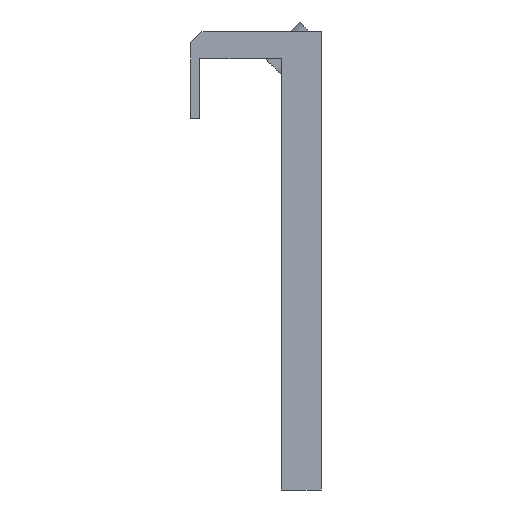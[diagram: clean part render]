
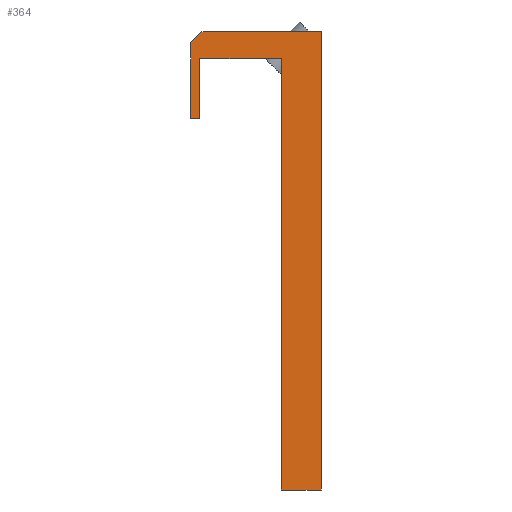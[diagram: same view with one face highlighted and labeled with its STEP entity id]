
A CAD part, front view. The second image highlights one B-rep face of the part: STEP entity #364.
In plain terms, the highlighted planar face has unit normal (0, -1, 0).
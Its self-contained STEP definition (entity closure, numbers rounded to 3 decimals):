
#21 = EDGE_CURVE('',#22,#24,#26,.T.);
#22 = VERTEX_POINT('',#23);
#23 = CARTESIAN_POINT('',(-23.6,23.2,-172.));
#24 = VERTEX_POINT('',#25);
#25 = CARTESIAN_POINT('',(-23.6,23.2,18.5));
#26 = SURFACE_CURVE('',#27,(#31,#43),.PCURVE_S1.);
#27 = LINE('',#28,#29);
#28 = CARTESIAN_POINT('',(-23.6,23.2,-172.));
#29 = VECTOR('',#30,1.);
#30 = DIRECTION('',(0.,0.,1.));
#31 = PCURVE('',#32,#37);
#32 = PLANE('',#33);
#33 = AXIS2_PLACEMENT_3D('',#34,#35,#36);
#34 = CARTESIAN_POINT('',(-23.6,23.2,-172.));
#35 = DIRECTION('',(1.,0.,0.));
#36 = DIRECTION('',(0.,0.,1.));
#37 = DEFINITIONAL_REPRESENTATION('',(#38),#42);
#38 = LINE('',#39,#40);
#39 = CARTESIAN_POINT('',(0.,0.));
#40 = VECTOR('',#41,1.);
#41 = DIRECTION('',(1.,0.));
#42 = ( GEOMETRIC_REPRESENTATION_CONTEXT(2) 
PARAMETRIC_REPRESENTATION_CONTEXT() REPRESENTATION_CONTEXT('2D SPACE',''
  ) );
#43 = PCURVE('',#44,#49);
#44 = PLANE('',#45);
#45 = AXIS2_PLACEMENT_3D('',#46,#47,#48);
#46 = CARTESIAN_POINT('',(-23.6,23.2,-172.));
#47 = DIRECTION('',(0.,1.,0.));
#48 = DIRECTION('',(0.,0.,1.));
#49 = DEFINITIONAL_REPRESENTATION('',(#50),#54);
#50 = LINE('',#51,#52);
#51 = CARTESIAN_POINT('',(0.,0.));
#52 = VECTOR('',#53,1.);
#53 = DIRECTION('',(1.,0.));
#54 = ( GEOMETRIC_REPRESENTATION_CONTEXT(2) 
PARAMETRIC_REPRESENTATION_CONTEXT() REPRESENTATION_CONTEXT('2D SPACE',''
  ) );
#72 = PLANE('',#73);
#73 = AXIS2_PLACEMENT_3D('',#74,#75,#76);
#74 = CARTESIAN_POINT('',(-23.6,23.2,-172.));
#75 = DIRECTION('',(0.,0.,1.));
#76 = DIRECTION('',(1.,0.,0.));
#127 = PLANE('',#128);
#128 = AXIS2_PLACEMENT_3D('',#129,#130,#131);
#129 = CARTESIAN_POINT('',(-63.7,23.2,18.5));
#130 = DIRECTION('',(0.,0.,1.));
#131 = DIRECTION('',(1.,0.,0.));
#364 = ADVANCED_FACE('',(#365),#44,.F.);
#365 = FACE_BOUND('',#366,.F.);
#366 = EDGE_LOOP('',(#367,#397,#418,#419,#442,#470,#498,#526,#552));
#367 = ORIENTED_EDGE('',*,*,#368,.F.);
#368 = EDGE_CURVE('',#369,#371,#373,.T.);
#369 = VERTEX_POINT('',#370);
#370 = CARTESIAN_POINT('',(-6.,23.2,-172.));
#371 = VERTEX_POINT('',#372);
#372 = CARTESIAN_POINT('',(-6.,23.2,30.5));
#373 = SURFACE_CURVE('',#374,(#378,#385),.PCURVE_S1.);
#374 = LINE('',#375,#376);
#375 = CARTESIAN_POINT('',(-6.,23.2,-172.));
#376 = VECTOR('',#377,1.);
#377 = DIRECTION('',(0.,0.,1.));
#378 = PCURVE('',#44,#379);
#379 = DEFINITIONAL_REPRESENTATION('',(#380),#384);
#380 = LINE('',#381,#382);
#381 = CARTESIAN_POINT('',(0.,17.6));
#382 = VECTOR('',#383,1.);
#383 = DIRECTION('',(1.,0.));
#384 = ( GEOMETRIC_REPRESENTATION_CONTEXT(2) 
PARAMETRIC_REPRESENTATION_CONTEXT() REPRESENTATION_CONTEXT('2D SPACE',''
  ) );
#385 = PCURVE('',#386,#391);
#386 = PLANE('',#387);
#387 = AXIS2_PLACEMENT_3D('',#388,#389,#390);
#388 = CARTESIAN_POINT('',(-6.,23.2,-172.));
#389 = DIRECTION('',(1.,0.,0.));
#390 = DIRECTION('',(0.,0.,1.));
#391 = DEFINITIONAL_REPRESENTATION('',(#392),#396);
#392 = LINE('',#393,#394);
#393 = CARTESIAN_POINT('',(0.,0.));
#394 = VECTOR('',#395,1.);
#395 = DIRECTION('',(1.,0.));
#396 = ( GEOMETRIC_REPRESENTATION_CONTEXT(2) 
PARAMETRIC_REPRESENTATION_CONTEXT() REPRESENTATION_CONTEXT('2D SPACE',''
  ) );
#397 = ORIENTED_EDGE('',*,*,#398,.F.);
#398 = EDGE_CURVE('',#22,#369,#399,.T.);
#399 = SURFACE_CURVE('',#400,(#404,#411),.PCURVE_S1.);
#400 = LINE('',#401,#402);
#401 = CARTESIAN_POINT('',(-23.6,23.2,-172.));
#402 = VECTOR('',#403,1.);
#403 = DIRECTION('',(1.,0.,0.));
#404 = PCURVE('',#44,#405);
#405 = DEFINITIONAL_REPRESENTATION('',(#406),#410);
#406 = LINE('',#407,#408);
#407 = CARTESIAN_POINT('',(0.,0.));
#408 = VECTOR('',#409,1.);
#409 = DIRECTION('',(0.,1.));
#410 = ( GEOMETRIC_REPRESENTATION_CONTEXT(2) 
PARAMETRIC_REPRESENTATION_CONTEXT() REPRESENTATION_CONTEXT('2D SPACE',''
  ) );
#411 = PCURVE('',#72,#412);
#412 = DEFINITIONAL_REPRESENTATION('',(#413),#417);
#413 = LINE('',#414,#415);
#414 = CARTESIAN_POINT('',(0.,0.));
#415 = VECTOR('',#416,1.);
#416 = DIRECTION('',(1.,0.));
#417 = ( GEOMETRIC_REPRESENTATION_CONTEXT(2) 
PARAMETRIC_REPRESENTATION_CONTEXT() REPRESENTATION_CONTEXT('2D SPACE',''
  ) );
#418 = ORIENTED_EDGE('',*,*,#21,.T.);
#419 = ORIENTED_EDGE('',*,*,#420,.F.);
#420 = EDGE_CURVE('',#421,#24,#423,.T.);
#421 = VERTEX_POINT('',#422);
#422 = CARTESIAN_POINT('',(-59.7,23.2,18.5));
#423 = SURFACE_CURVE('',#424,(#428,#435),.PCURVE_S1.);
#424 = LINE('',#425,#426);
#425 = CARTESIAN_POINT('',(-63.7,23.2,18.5));
#426 = VECTOR('',#427,1.);
#427 = DIRECTION('',(1.,0.,0.));
#428 = PCURVE('',#44,#429);
#429 = DEFINITIONAL_REPRESENTATION('',(#430),#434);
#430 = LINE('',#431,#432);
#431 = CARTESIAN_POINT('',(190.5,-40.1));
#432 = VECTOR('',#433,1.);
#433 = DIRECTION('',(0.,1.));
#434 = ( GEOMETRIC_REPRESENTATION_CONTEXT(2) 
PARAMETRIC_REPRESENTATION_CONTEXT() REPRESENTATION_CONTEXT('2D SPACE',''
  ) );
#435 = PCURVE('',#127,#436);
#436 = DEFINITIONAL_REPRESENTATION('',(#437),#441);
#437 = LINE('',#438,#439);
#438 = CARTESIAN_POINT('',(0.,0.));
#439 = VECTOR('',#440,1.);
#440 = DIRECTION('',(1.,0.));
#441 = ( GEOMETRIC_REPRESENTATION_CONTEXT(2) 
PARAMETRIC_REPRESENTATION_CONTEXT() REPRESENTATION_CONTEXT('2D SPACE',''
  ) );
#442 = ORIENTED_EDGE('',*,*,#443,.F.);
#443 = EDGE_CURVE('',#444,#421,#446,.T.);
#444 = VERTEX_POINT('',#445);
#445 = CARTESIAN_POINT('',(-59.7,23.2,-8.));
#446 = SURFACE_CURVE('',#447,(#451,#458),.PCURVE_S1.);
#447 = LINE('',#448,#449);
#448 = CARTESIAN_POINT('',(-59.7,23.2,-8.));
#449 = VECTOR('',#450,1.);
#450 = DIRECTION('',(0.,0.,1.));
#451 = PCURVE('',#44,#452);
#452 = DEFINITIONAL_REPRESENTATION('',(#453),#457);
#453 = LINE('',#454,#455);
#454 = CARTESIAN_POINT('',(164.,-36.1));
#455 = VECTOR('',#456,1.);
#456 = DIRECTION('',(1.,0.));
#457 = ( GEOMETRIC_REPRESENTATION_CONTEXT(2) 
PARAMETRIC_REPRESENTATION_CONTEXT() REPRESENTATION_CONTEXT('2D SPACE',''
  ) );
#458 = PCURVE('',#459,#464);
#459 = PLANE('',#460);
#460 = AXIS2_PLACEMENT_3D('',#461,#462,#463);
#461 = CARTESIAN_POINT('',(-59.7,23.2,-8.));
#462 = DIRECTION('',(1.,0.,0.));
#463 = DIRECTION('',(0.,0.,1.));
#464 = DEFINITIONAL_REPRESENTATION('',(#465),#469);
#465 = LINE('',#466,#467);
#466 = CARTESIAN_POINT('',(0.,0.));
#467 = VECTOR('',#468,1.);
#468 = DIRECTION('',(1.,0.));
#469 = ( GEOMETRIC_REPRESENTATION_CONTEXT(2) 
PARAMETRIC_REPRESENTATION_CONTEXT() REPRESENTATION_CONTEXT('2D SPACE',''
  ) );
#470 = ORIENTED_EDGE('',*,*,#471,.F.);
#471 = EDGE_CURVE('',#472,#444,#474,.T.);
#472 = VERTEX_POINT('',#473);
#473 = CARTESIAN_POINT('',(-63.7,23.2,-8.));
#474 = SURFACE_CURVE('',#475,(#479,#486),.PCURVE_S1.);
#475 = LINE('',#476,#477);
#476 = CARTESIAN_POINT('',(-63.7,23.2,-8.));
#477 = VECTOR('',#478,1.);
#478 = DIRECTION('',(1.,0.,0.));
#479 = PCURVE('',#44,#480);
#480 = DEFINITIONAL_REPRESENTATION('',(#481),#485);
#481 = LINE('',#482,#483);
#482 = CARTESIAN_POINT('',(164.,-40.1));
#483 = VECTOR('',#484,1.);
#484 = DIRECTION('',(0.,1.));
#485 = ( GEOMETRIC_REPRESENTATION_CONTEXT(2) 
PARAMETRIC_REPRESENTATION_CONTEXT() REPRESENTATION_CONTEXT('2D SPACE',''
  ) );
#486 = PCURVE('',#487,#492);
#487 = PLANE('',#488);
#488 = AXIS2_PLACEMENT_3D('',#489,#490,#491);
#489 = CARTESIAN_POINT('',(-63.7,23.2,-8.));
#490 = DIRECTION('',(0.,0.,1.));
#491 = DIRECTION('',(1.,0.,0.));
#492 = DEFINITIONAL_REPRESENTATION('',(#493),#497);
#493 = LINE('',#494,#495);
#494 = CARTESIAN_POINT('',(0.,0.));
#495 = VECTOR('',#496,1.);
#496 = DIRECTION('',(1.,0.));
#497 = ( GEOMETRIC_REPRESENTATION_CONTEXT(2) 
PARAMETRIC_REPRESENTATION_CONTEXT() REPRESENTATION_CONTEXT('2D SPACE',''
  ) );
#498 = ORIENTED_EDGE('',*,*,#499,.F.);
#499 = EDGE_CURVE('',#500,#472,#502,.T.);
#500 = VERTEX_POINT('',#501);
#501 = CARTESIAN_POINT('',(-63.7,23.2,25.5));
#502 = SURFACE_CURVE('',#503,(#507,#514),.PCURVE_S1.);
#503 = LINE('',#504,#505);
#504 = CARTESIAN_POINT('',(-63.7,23.2,30.5));
#505 = VECTOR('',#506,1.);
#506 = DIRECTION('',(0.,0.,-1.));
#507 = PCURVE('',#44,#508);
#508 = DEFINITIONAL_REPRESENTATION('',(#509),#513);
#509 = LINE('',#510,#511);
#510 = CARTESIAN_POINT('',(202.5,-40.1));
#511 = VECTOR('',#512,1.);
#512 = DIRECTION('',(-1.,0.));
#513 = ( GEOMETRIC_REPRESENTATION_CONTEXT(2) 
PARAMETRIC_REPRESENTATION_CONTEXT() REPRESENTATION_CONTEXT('2D SPACE',''
  ) );
#514 = PCURVE('',#515,#520);
#515 = PLANE('',#516);
#516 = AXIS2_PLACEMENT_3D('',#517,#518,#519);
#517 = CARTESIAN_POINT('',(-63.7,23.2,18.5));
#518 = DIRECTION('',(1.,0.,0.));
#519 = DIRECTION('',(0.,0.,1.));
#520 = DEFINITIONAL_REPRESENTATION('',(#521),#525);
#521 = LINE('',#522,#523);
#522 = CARTESIAN_POINT('',(12.,0.));
#523 = VECTOR('',#524,1.);
#524 = DIRECTION('',(-1.,0.));
#525 = ( GEOMETRIC_REPRESENTATION_CONTEXT(2) 
PARAMETRIC_REPRESENTATION_CONTEXT() REPRESENTATION_CONTEXT('2D SPACE',''
  ) );
#526 = ORIENTED_EDGE('',*,*,#527,.F.);
#527 = EDGE_CURVE('',#528,#500,#530,.T.);
#528 = VERTEX_POINT('',#529);
#529 = CARTESIAN_POINT('',(-58.7,23.2,30.5));
#530 = SURFACE_CURVE('',#531,(#535,#541),.PCURVE_S1.);
#531 = LINE('',#532,#533);
#532 = CARTESIAN_POINT('',(-103.55,23.2,-14.35));
#533 = VECTOR('',#534,1.);
#534 = DIRECTION('',(-0.707,0.,-0.707));
#535 = PCURVE('',#44,#536);
#536 = DEFINITIONAL_REPRESENTATION('',(#537),#540);
#537 = B_SPLINE_CURVE_WITH_KNOTS('',1,(#538,#539),.UNSPECIFIED.,.F.,.F.,
  (2,2),(-63.427,-56.356),.PIECEWISE_BEZIER_KNOTS.);
#538 = CARTESIAN_POINT('',(202.5,-35.1));
#539 = CARTESIAN_POINT('',(197.5,-40.1));
#540 = ( GEOMETRIC_REPRESENTATION_CONTEXT(2) 
PARAMETRIC_REPRESENTATION_CONTEXT() REPRESENTATION_CONTEXT('2D SPACE',''
  ) );
#541 = PCURVE('',#542,#547);
#542 = PLANE('',#543);
#543 = AXIS2_PLACEMENT_3D('',#544,#545,#546);
#544 = CARTESIAN_POINT('',(-64.7,22.2,24.5));
#545 = DIRECTION('',(0.707,0.,-0.707));
#546 = DIRECTION('',(0.707,0.,0.707));
#547 = DEFINITIONAL_REPRESENTATION('',(#548),#551);
#548 = B_SPLINE_CURVE_WITH_KNOTS('',1,(#549,#550),.UNSPECIFIED.,.F.,.F.,
  (2,2),(-63.427,-56.356),.PIECEWISE_BEZIER_KNOTS.);
#549 = CARTESIAN_POINT('',(8.485,-1.));
#550 = CARTESIAN_POINT('',(1.414,-1.));
#551 = ( GEOMETRIC_REPRESENTATION_CONTEXT(2) 
PARAMETRIC_REPRESENTATION_CONTEXT() REPRESENTATION_CONTEXT('2D SPACE',''
  ) );
#552 = ORIENTED_EDGE('',*,*,#553,.F.);
#553 = EDGE_CURVE('',#371,#528,#554,.T.);
#554 = SURFACE_CURVE('',#555,(#559,#566),.PCURVE_S1.);
#555 = LINE('',#556,#557);
#556 = CARTESIAN_POINT('',(-6.,23.2,30.5));
#557 = VECTOR('',#558,1.);
#558 = DIRECTION('',(-1.,0.,0.));
#559 = PCURVE('',#44,#560);
#560 = DEFINITIONAL_REPRESENTATION('',(#561),#565);
#561 = LINE('',#562,#563);
#562 = CARTESIAN_POINT('',(202.5,17.6));
#563 = VECTOR('',#564,1.);
#564 = DIRECTION('',(0.,-1.));
#565 = ( GEOMETRIC_REPRESENTATION_CONTEXT(2) 
PARAMETRIC_REPRESENTATION_CONTEXT() REPRESENTATION_CONTEXT('2D SPACE',''
  ) );
#566 = PCURVE('',#567,#572);
#567 = PLANE('',#568);
#568 = AXIS2_PLACEMENT_3D('',#569,#570,#571);
#569 = CARTESIAN_POINT('',(-23.6,23.2,30.5));
#570 = DIRECTION('',(0.,0.,1.));
#571 = DIRECTION('',(1.,0.,0.));
#572 = DEFINITIONAL_REPRESENTATION('',(#573),#577);
#573 = LINE('',#574,#575);
#574 = CARTESIAN_POINT('',(17.6,0.));
#575 = VECTOR('',#576,1.);
#576 = DIRECTION('',(-1.,0.));
#577 = ( GEOMETRIC_REPRESENTATION_CONTEXT(2) 
PARAMETRIC_REPRESENTATION_CONTEXT() REPRESENTATION_CONTEXT('2D SPACE',''
  ) );
